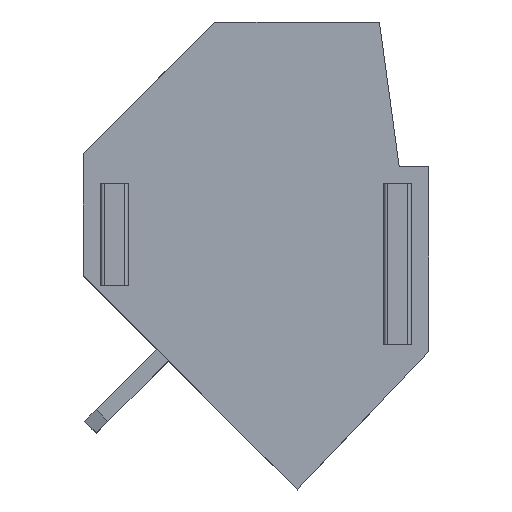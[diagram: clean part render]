
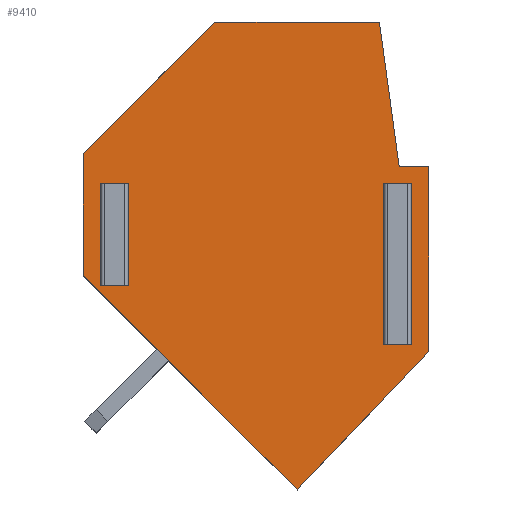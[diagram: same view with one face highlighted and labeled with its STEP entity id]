
A CAD part, top view. The second image highlights one B-rep face of the part: STEP entity #9410.
In plain terms, the highlighted planar face has unit normal (0, 0, 1).
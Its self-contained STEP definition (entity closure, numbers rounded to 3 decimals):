
#1 = ORIENTED_EDGE ( 'NONE', *, *, #2699, .T. ) ;
#10 = ORIENTED_EDGE ( 'NONE', *, *, #2766, .T. ) ;
#2271 = DIRECTION ( 'NONE',  ( -1., 0., 0. ) ) ;
#2272 = VECTOR ( 'NONE', #2271, 1000. ) ;
#2273 = CARTESIAN_POINT ( 'NONE',  ( -206.187, 158.204, 0. ) ) ;
#2274 = LINE ( 'NONE', #2273, #2272 ) ;
#2394 = DIRECTION ( 'NONE',  ( 0.69, 0.724, 0. ) ) ;
#2395 = VECTOR ( 'NONE', #2394, 1000. ) ;
#2396 = CARTESIAN_POINT ( 'NONE',  ( -210.187, 148.404, 0. ) ) ;
#2397 = LINE ( 'NONE', #2396, #2395 ) ;
#2398 = DIRECTION ( 'NONE',  ( 1., 0., 0. ) ) ;
#2399 = DIRECTION ( 'NONE',  ( 0., 0., 1. ) ) ;
#2400 = CARTESIAN_POINT ( 'NONE',  ( -206.187, 158.204, 0. ) ) ;
#2401 = AXIS2_PLACEMENT_3D ( 'NONE', #2400, #2399, #2398 ) ;
#2402 = PLANE ( 'NONE',  #2401 ) ;
#2403 = FACE_BOUND ( 'NONE', #9418, .T. ) ;
#2404 = FACE_OUTER_BOUND ( 'NONE', #9402, .T. ) ;
#2405 = FACE_BOUND ( 'NONE', #9421, .T. ) ;
#2694 = EDGE_CURVE ( 'NONE', #2711, #2707, #5919, .T. ) ;
#2699 = EDGE_CURVE ( 'NONE', #2700, #2714, #5909, .T. ) ;
#2700 = VERTEX_POINT ( 'NONE', #5905 ) ;
#2707 = VERTEX_POINT ( 'NONE', #5954 ) ;
#2711 = VERTEX_POINT ( 'NONE', #5949 ) ;
#2713 = EDGE_CURVE ( 'NONE', #2714, #2711, #5948, .T. ) ;
#2714 = VERTEX_POINT ( 'NONE', #5944 ) ;
#2728 = VERTEX_POINT ( 'NONE', #5985 ) ;
#2739 = EDGE_CURVE ( 'NONE', #2761, #2728, #5974, .T. ) ;
#2742 = EDGE_CURVE ( 'NONE', #2743, #2755, #5970, .T. ) ;
#2743 = VERTEX_POINT ( 'NONE', #5966 ) ;
#2752 = EDGE_CURVE ( 'NONE', #2728, #2743, #6020, .T. ) ;
#2755 = VERTEX_POINT ( 'NONE', #6012 ) ;
#2761 = VERTEX_POINT ( 'NONE', #6007 ) ;
#2763 = EDGE_CURVE ( 'NONE', #2755, #2761, #6006, .T. ) ;
#2766 = EDGE_CURVE ( 'NONE', #2707, #2700, #5996, .T. ) ;
#3840 = VERTEX_POINT ( 'NONE', #7835 ) ;
#3894 = VERTEX_POINT ( 'NONE', #7875 ) ;
#3896 = EDGE_CURVE ( 'NONE', #3897, #3894, #7874, .T. ) ;
#3897 = VERTEX_POINT ( 'NONE', #7935 ) ;
#3929 = VERTEX_POINT ( 'NONE', #7904 ) ;
#3931 = EDGE_CURVE ( 'NONE', #3840, #3929, #7967, .T. ) ;
#3933 = VERTEX_POINT ( 'NONE', #7959 ) ;
#3935 = EDGE_CURVE ( 'NONE', #3958, #3933, #7958, .T. ) ;
#3958 = VERTEX_POINT ( 'NONE', #7986 ) ;
#3960 = EDGE_CURVE ( 'NONE', #3961, #3958, #7985, .T. ) ;
#3961 = VERTEX_POINT ( 'NONE', #7981 ) ;
#3991 = VERTEX_POINT ( 'NONE', #8003 ) ;
#3993 = EDGE_CURVE ( 'NONE', #3933, #3991, #8002, .T. ) ;
#4040 = EDGE_CURVE ( 'NONE', #3991, #3840, #8114, .T. ) ;
#5905 = CARTESIAN_POINT ( 'NONE',  ( -215.537, 154.604, 0. ) ) ;
#5906 = DIRECTION ( 'NONE',  ( -1., 0., 0. ) ) ;
#5907 = VECTOR ( 'NONE', #5906, 1000. ) ;
#5908 = CARTESIAN_POINT ( 'NONE',  ( -206.187, 154.604, 0. ) ) ;
#5909 = LINE ( 'NONE', #5908, #5907 ) ;
#5916 = DIRECTION ( 'NONE',  ( 1., 0., 0. ) ) ;
#5917 = VECTOR ( 'NONE', #5916, 1000. ) ;
#5918 = CARTESIAN_POINT ( 'NONE',  ( -206.187, 157.704, 0. ) ) ;
#5919 = LINE ( 'NONE', #5918, #5917 ) ;
#5944 = CARTESIAN_POINT ( 'NONE',  ( -215.937, 154.604, 0. ) ) ;
#5945 = DIRECTION ( 'NONE',  ( 0., 1., 0. ) ) ;
#5946 = VECTOR ( 'NONE', #5945, 1000. ) ;
#5947 = CARTESIAN_POINT ( 'NONE',  ( -215.937, 158.204, 0. ) ) ;
#5948 = LINE ( 'NONE', #5947, #5946 ) ;
#5949 = CARTESIAN_POINT ( 'NONE',  ( -215.937, 157.704, 0. ) ) ;
#5954 = CARTESIAN_POINT ( 'NONE',  ( -215.537, 157.704, 0. ) ) ;
#5966 = CARTESIAN_POINT ( 'NONE',  ( -207.337, 152.804, 0. ) ) ;
#5967 = DIRECTION ( 'NONE',  ( 0., 1., 0. ) ) ;
#5968 = VECTOR ( 'NONE', #5967, 1000. ) ;
#5969 = CARTESIAN_POINT ( 'NONE',  ( -207.337, 158.204, 0. ) ) ;
#5970 = LINE ( 'NONE', #5969, #5968 ) ;
#5971 = DIRECTION ( 'NONE',  ( 0., -1., 0. ) ) ;
#5972 = VECTOR ( 'NONE', #5971, 1000. ) ;
#5973 = CARTESIAN_POINT ( 'NONE',  ( -206.937, 158.204, 0. ) ) ;
#5974 = LINE ( 'NONE', #5973, #5972 ) ;
#5985 = CARTESIAN_POINT ( 'NONE',  ( -206.937, 152.804, 0. ) ) ;
#5993 = DIRECTION ( 'NONE',  ( 0., -1., 0. ) ) ;
#5994 = VECTOR ( 'NONE', #5993, 1000. ) ;
#5995 = CARTESIAN_POINT ( 'NONE',  ( -215.537, 158.204, 0. ) ) ;
#5996 = LINE ( 'NONE', #5995, #5994 ) ;
#6003 = DIRECTION ( 'NONE',  ( 1., 0., 0. ) ) ;
#6004 = VECTOR ( 'NONE', #6003, 1000. ) ;
#6005 = CARTESIAN_POINT ( 'NONE',  ( -206.187, 157.704, 0. ) ) ;
#6006 = LINE ( 'NONE', #6005, #6004 ) ;
#6007 = CARTESIAN_POINT ( 'NONE',  ( -206.937, 157.704, 0. ) ) ;
#6012 = CARTESIAN_POINT ( 'NONE',  ( -207.337, 157.704, 0. ) ) ;
#6017 = DIRECTION ( 'NONE',  ( -1., 0., 0. ) ) ;
#6018 = VECTOR ( 'NONE', #6017, 1000. ) ;
#6019 = CARTESIAN_POINT ( 'NONE',  ( -206.187, 152.804, 0. ) ) ;
#6020 = LINE ( 'NONE', #6019, #6018 ) ;
#7835 = CARTESIAN_POINT ( 'NONE',  ( -216.687, 154.904, 0. ) ) ;
#7873 = CARTESIAN_POINT ( 'NONE',  ( -206.187, 158.204, 0. ) ) ;
#7874 = LINE ( 'NONE', #7873, #7937 ) ;
#7875 = CARTESIAN_POINT ( 'NONE',  ( -206.187, 158.204, 0. ) ) ;
#7904 = CARTESIAN_POINT ( 'NONE',  ( -210.187, 148.404, 0. ) ) ;
#7935 = CARTESIAN_POINT ( 'NONE',  ( -206.187, 152.604, 0. ) ) ;
#7936 = DIRECTION ( 'NONE',  ( 0., 1., 0. ) ) ;
#7937 = VECTOR ( 'NONE', #7936, 1000. ) ;
#7955 = DIRECTION ( 'NONE',  ( -1., 0., 0. ) ) ;
#7956 = VECTOR ( 'NONE', #7955, 1000. ) ;
#7957 = CARTESIAN_POINT ( 'NONE',  ( -206.187, 162.604, 0. ) ) ;
#7958 = LINE ( 'NONE', #7957, #7956 ) ;
#7959 = CARTESIAN_POINT ( 'NONE',  ( -212.687, 162.604, 0. ) ) ;
#7964 = DIRECTION ( 'NONE',  ( 0.707, -0.707, 0. ) ) ;
#7965 = VECTOR ( 'NONE', #7964, 1000. ) ;
#7966 = CARTESIAN_POINT ( 'NONE',  ( -216.687, 154.904, 0. ) ) ;
#7967 = LINE ( 'NONE', #7966, #7965 ) ;
#7981 = CARTESIAN_POINT ( 'NONE',  ( -207.087, 158.204, 0. ) ) ;
#7982 = DIRECTION ( 'NONE',  ( -0.135, 0.991, 0. ) ) ;
#7983 = VECTOR ( 'NONE', #7982, 1000. ) ;
#7984 = CARTESIAN_POINT ( 'NONE',  ( -207.087, 158.204, 0. ) ) ;
#7985 = LINE ( 'NONE', #7984, #7983 ) ;
#7986 = CARTESIAN_POINT ( 'NONE',  ( -207.687, 162.604, 0. ) ) ;
#8002 = LINE ( 'NONE', #8062, #8061 ) ;
#8003 = CARTESIAN_POINT ( 'NONE',  ( -216.687, 158.604, 0. ) ) ;
#8060 = DIRECTION ( 'NONE',  ( -0.707, -0.707, 0. ) ) ;
#8061 = VECTOR ( 'NONE', #8060, 1000. ) ;
#8062 = CARTESIAN_POINT ( 'NONE',  ( -212.687, 162.604, 0. ) ) ;
#8111 = DIRECTION ( 'NONE',  ( 0., -1., 0. ) ) ;
#8112 = VECTOR ( 'NONE', #8111, 1000. ) ;
#8113 = CARTESIAN_POINT ( 'NONE',  ( -216.687, 158.204, 0. ) ) ;
#8114 = LINE ( 'NONE', #8113, #8112 ) ;
#9318 = EDGE_CURVE ( 'NONE', #3894, #3961, #2274, .T. ) ;
#9392 = ORIENTED_EDGE ( 'NONE', *, *, #2739, .T. ) ;
#9394 = ORIENTED_EDGE ( 'NONE', *, *, #3993, .T. ) ;
#9395 = ORIENTED_EDGE ( 'NONE', *, *, #2763, .T. ) ;
#9399 = ORIENTED_EDGE ( 'NONE', *, *, #2742, .T. ) ;
#9402 = EDGE_LOOP ( 'NONE', ( #9394, #9420, #9415, #9419, #9411, #9414, #9413, #9416 ) ) ;
#9407 = ORIENTED_EDGE ( 'NONE', *, *, #2752, .T. ) ;
#9410 = ADVANCED_FACE ( 'NONE', ( #2405, #2404, #2403 ), #2402, .T. ) ;
#9411 = ORIENTED_EDGE ( 'NONE', *, *, #3896, .T. ) ;
#9413 = ORIENTED_EDGE ( 'NONE', *, *, #3960, .T. ) ;
#9414 = ORIENTED_EDGE ( 'NONE', *, *, #9318, .T. ) ;
#9415 = ORIENTED_EDGE ( 'NONE', *, *, #3931, .T. ) ;
#9416 = ORIENTED_EDGE ( 'NONE', *, *, #3935, .T. ) ;
#9418 = EDGE_LOOP ( 'NONE', ( #9423, #10, #1, #9426 ) ) ;
#9419 = ORIENTED_EDGE ( 'NONE', *, *, #9422, .T. ) ;
#9420 = ORIENTED_EDGE ( 'NONE', *, *, #4040, .T. ) ;
#9421 = EDGE_LOOP ( 'NONE', ( #9392, #9407, #9399, #9395 ) ) ;
#9422 = EDGE_CURVE ( 'NONE', #3929, #3897, #2397, .T. ) ;
#9423 = ORIENTED_EDGE ( 'NONE', *, *, #2694, .T. ) ;
#9426 = ORIENTED_EDGE ( 'NONE', *, *, #2713, .T. ) ;
